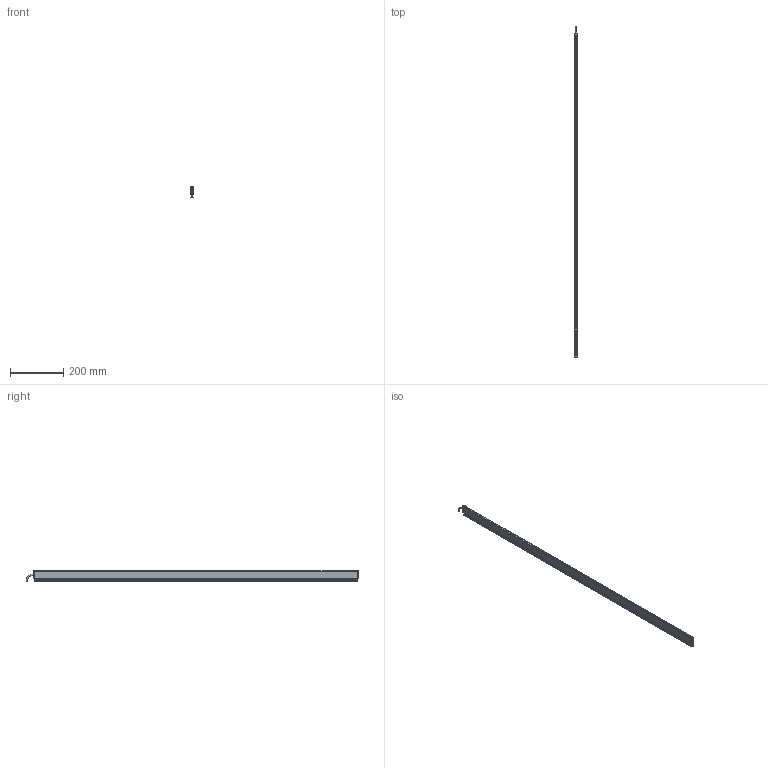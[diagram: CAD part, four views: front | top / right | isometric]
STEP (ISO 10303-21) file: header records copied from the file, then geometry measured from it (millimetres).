
FILE_DESCRIPTION (( 'STEP AP214' ), '1' );
FILE_NAME ('ILG-L-K1-1220mm.STEP', '2017-07-11T07:12:05', ( '' ), ( '' ), 'SwSTEP 2.0', 'SolidWorks 2016', '' );
FILE_SCHEMA (( 'AUTOMOTIVE_DESIGN' ));
Length unit declared in the file: millimetre
Products named in the file (1): ILG-L-K1-1220mm
Bounding box: 9 x 1248.25 x 40.71 mm (x, y, z)
Volume: 173283.2 mm3; surface area: 240943.8 mm2
Topology: 9 solids, 9 shells, 430 faces, 1108 edges, 698 vertices
Faces by surface type: plane 205, cylinder 151, cone 64, torus 10
Entity records: 17910 total; most frequent: CARTESIAN_POINT 2385, DIRECTION 2328, ORIENTED_EDGE 2200, EDGE_CURVE 1100, AXIS2_PLACEMENT_3D 849, VERTEX_POINT 698, VECTOR 630, LINE 630
